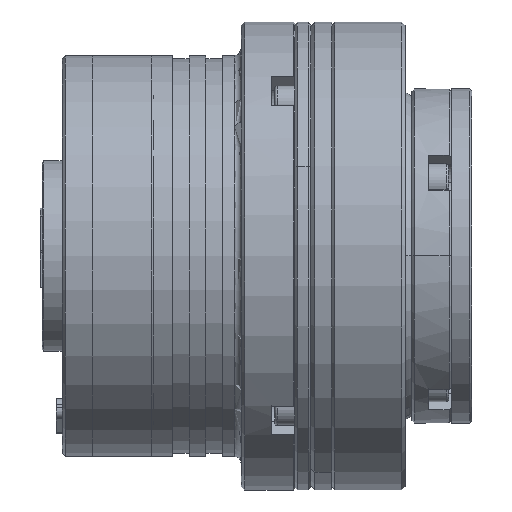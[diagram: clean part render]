
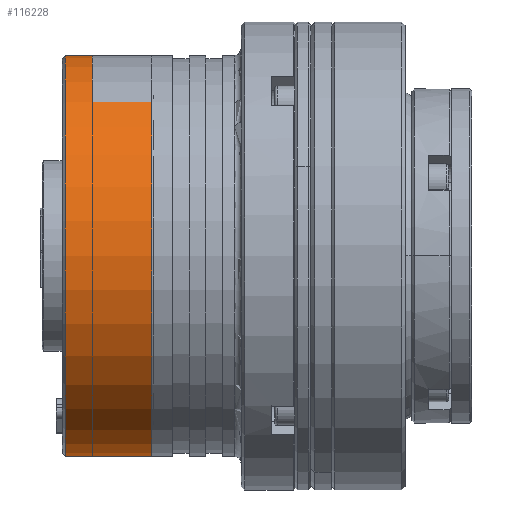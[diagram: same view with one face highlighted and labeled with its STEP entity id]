
A CAD part, top view. The second image highlights one B-rep face of the part: STEP entity #116228.
In plain terms, the highlighted cylindrical face has radius 30 mm (diameter 60 mm), a full revolution.
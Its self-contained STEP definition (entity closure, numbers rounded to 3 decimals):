
#116178=CARTESIAN_POINT('',(-49.8,0.,-30.));
#116179=VERTEX_POINT('',#116178);
#116186=CARTESIAN_POINT('',(-49.8,0.,0.));
#116187=DIRECTION('',(0.,0.,-1.));
#116188=DIRECTION('',(-1.,0.,0.));
#116189=AXIS2_PLACEMENT_3D('',#116186,#116188,#116187);
#116190=CIRCLE('',#116189,30.);
#116191=EDGE_CURVE('',#116179,#116179,#116190,.T.);
#116204=CARTESIAN_POINT('',(-49.8,0.,0.));
#116205=DIRECTION('',(0.,0.,-1.));
#116206=DIRECTION('',(1.,0.,0.));
#116207=AXIS2_PLACEMENT_3D('',#116204,#116206,#116205);
#116208=CYLINDRICAL_SURFACE('',#116207,30.);
#116209=CARTESIAN_POINT('',(-36.9,0.,-30.));
#116210=VERTEX_POINT('',#116209);
#116211=CARTESIAN_POINT('',(-49.8,0.,-30.));
#116212=DIRECTION('',(1.,0.,0.));
#116213=VECTOR('',#116212,12.9);
#116214=LINE('',#116211,#116213);
#116215=EDGE_CURVE('',#116179,#116210,#116214,.T.);
#116216=ORIENTED_EDGE('',*,*,#116215,.T.);
#116217=CARTESIAN_POINT('',(-36.9,0.,0.));
#116218=DIRECTION('',(0.,0.,-1.));
#116219=DIRECTION('',(-1.,0.,0.));
#116220=AXIS2_PLACEMENT_3D('',#116217,#116219,#116218);
#116221=CIRCLE('',#116220,30.);
#116222=EDGE_CURVE('',#116210,#116210,#116221,.T.);
#116223=ORIENTED_EDGE('',*,*,#116222,.T.);
#116224=ORIENTED_EDGE('',*,*,#116215,.F.);
#116225=ORIENTED_EDGE('',*,*,#116191,.F.);
#116226=EDGE_LOOP('',(#116216,#116223,#116224,#116225));
#116227=FACE_OUTER_BOUND('',#116226,.T.);
#116228=ADVANCED_FACE('',(#116227),#116208,.T.);
